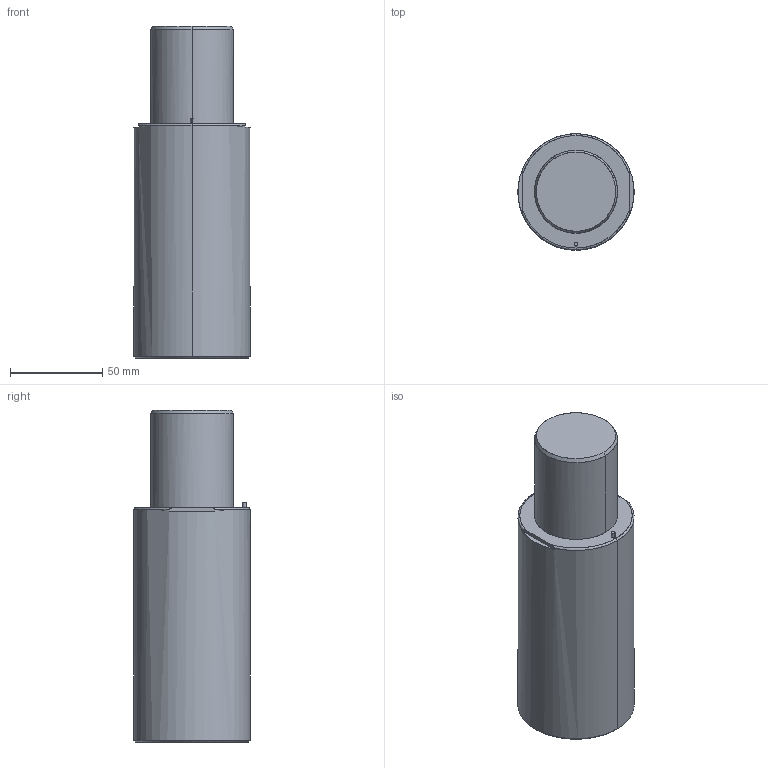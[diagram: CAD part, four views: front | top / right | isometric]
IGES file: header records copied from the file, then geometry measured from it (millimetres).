
Global section: file name: E:\UnigraphicsGraphicData\MISUMI_PRESS-PARTS\IGES\3d_gsx63-50_03988_r00.igs; native system: NX V5.0; preprocessor: UGS NX IGES V5.0; author: MISUMI; date: 20110105.160831; units: millimetre
Bounding box: 63 x 63 x 180 mm (x, y, z)
Surface area: 40274.7 mm2 (no closed solid volume)
Topology: 0 solids, 0 shells, 59 faces, 428 edges, 420 vertices
Faces by surface type: bspline 59
